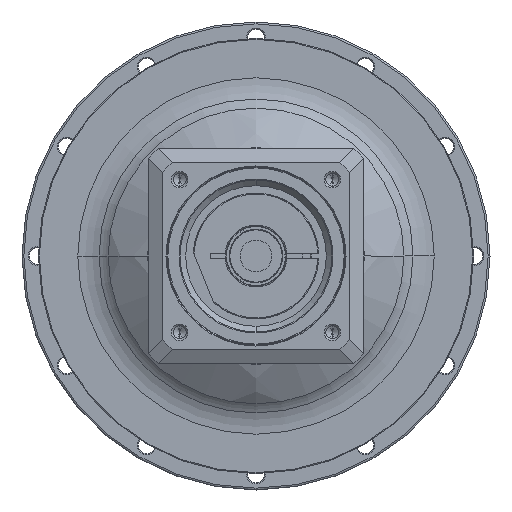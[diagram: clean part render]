
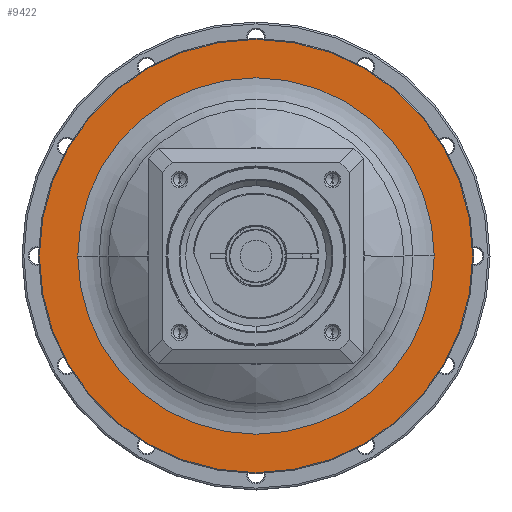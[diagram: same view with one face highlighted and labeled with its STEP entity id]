
A CAD part, left-side view. The second image highlights one B-rep face of the part: STEP entity #9422.
In plain terms, the highlighted planar face has unit normal (-1, 0, 0) as drawn and (1, 0, 0) by its records, which use the part's own axes.
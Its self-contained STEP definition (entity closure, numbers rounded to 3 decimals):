
#8381=CARTESIAN_POINT('',(-25.5,0.,0.));
#8382=DIRECTION('',(1.,0.,0.));
#8383=DIRECTION('',(0.,1.,0.));
#8384=AXIS2_PLACEMENT_3D('',#8381,#8382,#8383);
#8386=CARTESIAN_POINT('',(-25.5,0.,0.));
#8387=DIRECTION('',(1.,0.,0.));
#8388=DIRECTION('',(0.,-1.,0.));
#8389=AXIS2_PLACEMENT_3D('',#8386,#8387,#8388);
#8391=CARTESIAN_POINT('',(-25.5,0.,0.));
#8392=DIRECTION('',(-1.,0.,0.));
#8393=DIRECTION('',(0.,-1.,0.));
#8394=AXIS2_PLACEMENT_3D('',#8391,#8392,#8393);
#8396=CARTESIAN_POINT('',(-25.5,0.,0.));
#8397=DIRECTION('',(-1.,0.,0.));
#8398=DIRECTION('',(0.,1.,0.));
#8399=AXIS2_PLACEMENT_3D('',#8396,#8397,#8398);
#8703=CARTESIAN_POINT('',(-25.5,-115.5,0.));
#8704=CARTESIAN_POINT('',(-25.5,115.5,0.));
#8705=VERTEX_POINT('',#8703);
#8706=VERTEX_POINT('',#8704);
#8817=CARTESIAN_POINT('',(-25.5,95.,0.));
#8818=VERTEX_POINT('',#8817);
#8819=CARTESIAN_POINT('',(-25.5,-95.,0.));
#8820=VERTEX_POINT('',#8819);
#9407=CARTESIAN_POINT('',(-25.5,0.,0.));
#9408=DIRECTION('',(1.,0.,0.));
#9409=DIRECTION('',(0.,-1.,0.));
#9410=AXIS2_PLACEMENT_3D('',#9407,#9408,#9409);
#9411=PLANE('',#9410);
#9412=ORIENTED_EDGE('',*,*,#9363,.T.);
#9413=ORIENTED_EDGE('',*,*,#9348,.T.);
#9414=EDGE_LOOP('',(#9412,#9413));
#9415=FACE_OUTER_BOUND('',#9414,.F.);
#9417=ORIENTED_EDGE('',*,*,#9416,.T.);
#9419=ORIENTED_EDGE('',*,*,#9418,.T.);
#9420=EDGE_LOOP('',(#9417,#9419));
#9421=FACE_BOUND('',#9420,.F.);
#9422=ADVANCED_FACE('',(#9415,#9421),#9411,.T.);
#8385=CIRCLE('',#8384,95.);
#8390=CIRCLE('',#8389,95.);
#8395=CIRCLE('',#8394,115.5);
#8400=CIRCLE('',#8399,115.5);
#9348=EDGE_CURVE('',#8706,#8705,#8400,.T.);
#9363=EDGE_CURVE('',#8705,#8706,#8395,.T.);
#9416=EDGE_CURVE('',#8818,#8820,#8385,.T.);
#9418=EDGE_CURVE('',#8820,#8818,#8390,.T.);
